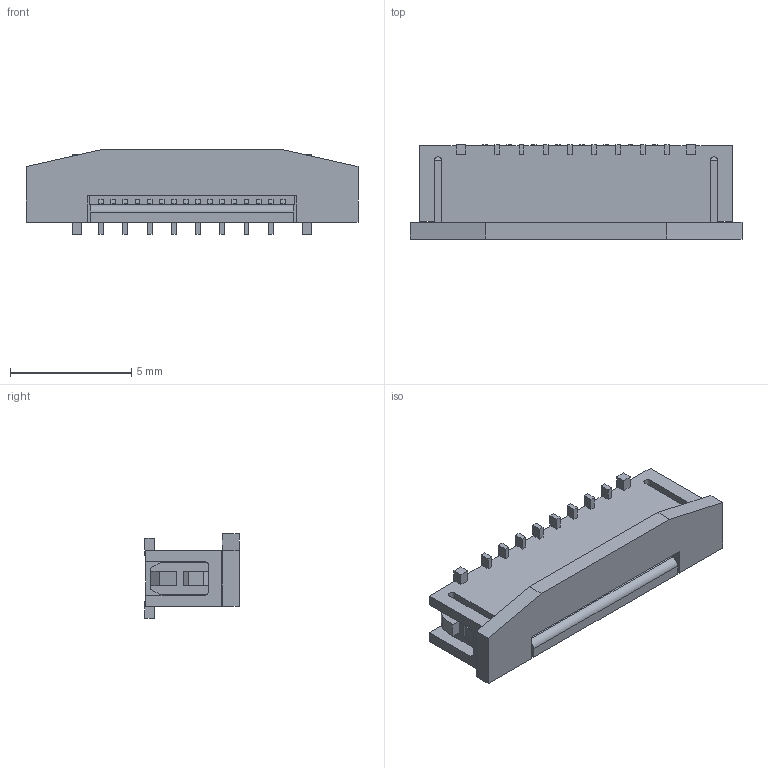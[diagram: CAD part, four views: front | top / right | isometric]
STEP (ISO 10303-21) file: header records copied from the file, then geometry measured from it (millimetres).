
FILE_DESCRIPTION(/* description */ (''),/* implementation_level */ '2;1');
FILE_NAME(/* name */ '525591652wbm000_01_214.stp',/* time_stamp */ '2022-07-21T10:35:14+05:00',/* author */ (''),/* organization */ (''),/* preprocessor_version */ 'ST-DEVELOPER v16.7',/* originating_system */ 'SIEMENS PLM Software NX 1919',/* authorisation */ '');
FILE_SCHEMA (('AUTOMOTIVE_DESIGN { 1 0 10303 214 3 1 1 1 }'));
Length unit declared in the file: millimetre
Products named in the file (1): 525591652wbm000_01
Bounding box: 13.7 x 3.9 x 3.5 mm (x, y, z)
Volume: 106.5 mm3; surface area: 353.2 mm2
Topology: 1 solids, 1 shells, 408 faces, 1313 edges, 862 vertices
Faces by surface type: plane 347, cylinder 61
Entity records: 14339 total; most frequent: ORIENTED_EDGE 2626, CARTESIAN_POINT 2584, DIRECTION 2253, EDGE_CURVE 1313, LINE 1191, VECTOR 1191, VERTEX_POINT 862, AXIS2_PLACEMENT_3D 531
